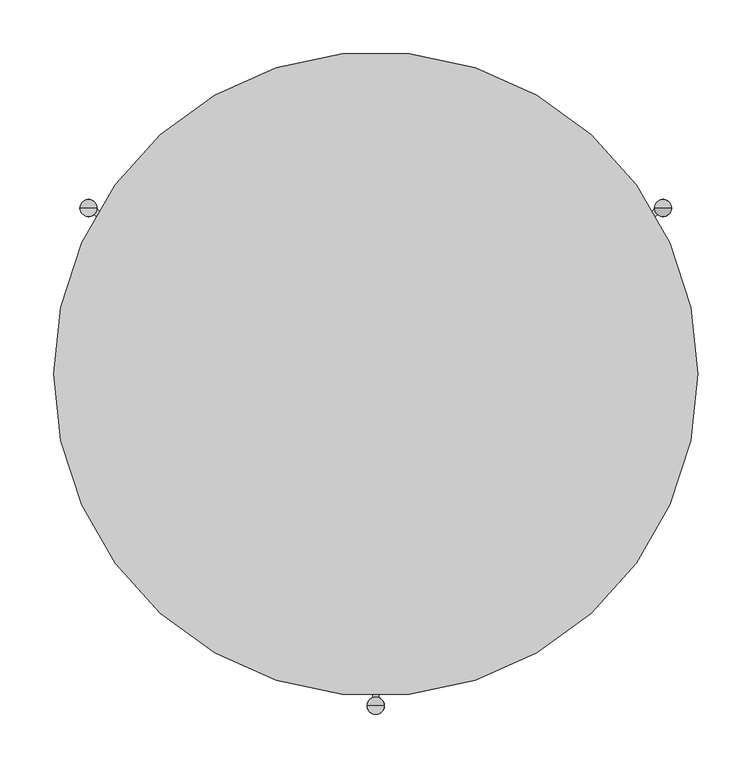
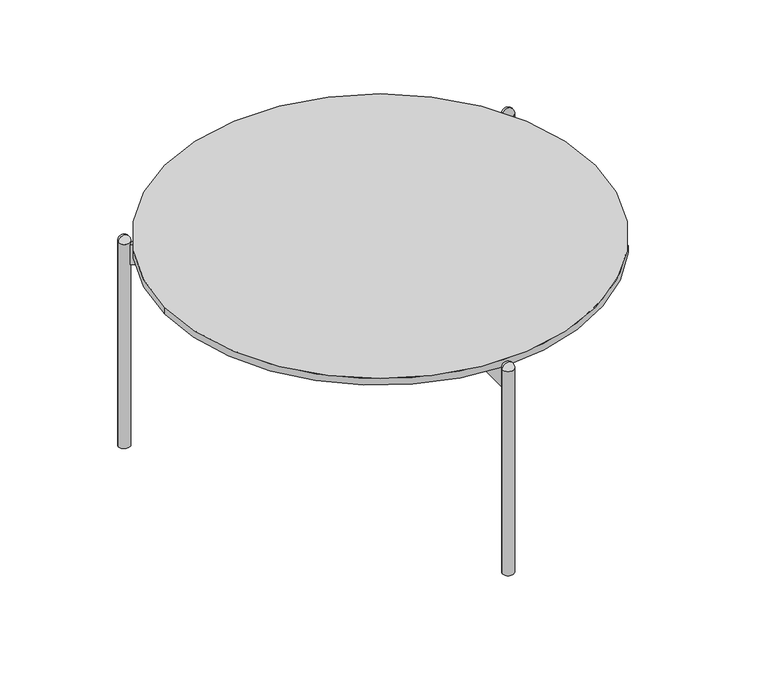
"""IFC4 building model written with IfcOpenShell, lengths in millimetres: furniture geometry, ROUND TABLE_H=31 : EI131B050060A_G."""

from ifc_helpers import new_model, si_unit, point, frame, frame_2d, origin, origin_with_axes, origin_2d, place, context, project, spatial, polyline, circle_curve, ellipse_curve, trimmed, segment, composite_curve, outline, extrude, source, transform, mapped, element, save
from ifc_brep_helpers import plane_surface, revolved_surface, advanced_brep


def furniture_a6a437eb(model_context):
    return source(origin(), model_context, "Body", "SolidModel", [
        extrude(outline(composite_curve([segment(trimmed(circle_curve(origin_2d(), 300.0), [point((-300.0, 0.0))], [point((300.0, 0.0))], False, "CARTESIAN"), True, "CONTINUOUS"), segment(trimmed(circle_curve(origin_2d(), 300.0), [point((300.0, 0.0))], [point((-300.0, 0.0))], False, "CARTESIAN"), True, "CONTINUOUS")], self_intersect=False)), frame((0.0, 0.0, 297.6939464), z_axis=(0.0, 0.0, 1.0), x_axis=(1.0, 0.0, 0.0)), (0.0, 0.0, 1.0), 10.0),
        extrude(outline(composite_curve([segment(polyline([(-19.7129166, 7.9278768), (-262.7443334, 148.2421307)]), True, "CONTINUOUS"), segment(trimmed(circle_curve(frame_2d((-267.6, 154.6)), 8.0), [point((-262.7443334, 148.2421307))], [point((-259.6895089, 153.4066303))], True, "CARTESIAN"), True, "CONTINUOUS"), segment(polyline([(-259.6895089, 153.4066303), (-16.7129166, 13.1240293), (-19.7129166, 7.9278768)]), True, "CONTINUOUS")], self_intersect=False)), frame((0.0, 0.0, 267.6939464), z_axis=(0.0, 0.0, 1.0), x_axis=(1.0, 0.0, 0.0)), (0.0, 0.0, 1.0), 30.0),
        extrude(outline(composite_curve([segment(polyline([(19.7314855, 7.9171561), (16.7314855, 13.1133085), (259.6925075, 153.38692)]), True, "CONTINUOUS"), segment(trimmed(circle_curve(frame_2d((267.6, 154.6)), 8.0), [point((259.6925075, 153.38692))], [point((262.7603454, 148.2299338))], True, "CARTESIAN"), True, "CONTINUOUS"), segment(polyline([(262.7603454, 148.2299338), (19.7314855, 7.9171561)]), True, "CONTINUOUS")], self_intersect=False)), frame((0.0, 0.0, 267.6939464), z_axis=(0.0, 0.0, 1.0), x_axis=(1.0, 0.0, 0.0)), (0.0, 0.0, 1.0), 30.0),
        extrude(outline(composite_curve([segment(polyline([(3.0, -21.0411853), (3.0, -301.5838015)]), True, "CONTINUOUS"), segment(trimmed(circle_curve(frame_2d((0.0, -309.0)), 8.0), [point((3.0, -301.5838015))], [point((-3.0, -301.5838015))], True, "CARTESIAN"), True, "CONTINUOUS"), segment(polyline([(-3.0, -301.5838015), (-3.0, -21.0411853), (3.0, -21.0411853)]), True, "CONTINUOUS")], self_intersect=False)), frame((0.0, 0.0, 267.6939464), z_axis=(0.0, 0.0, 1.0), x_axis=(1.0, 0.0, 0.0)), (0.0, 0.0, 1.0), 30.0),
        advanced_brep(
        [(267.6, 154.6, 309.1666667), (259.6, 154.6, 301.1666667), (275.6, 154.6, 301.1666667), (267.6, 154.6, 301.1666667)],
        [
            (0, 1, circle_curve(frame((267.6, 154.6, 301.1666667), z_axis=(0.0, -1.0, 0.0), x_axis=(1.0, 0.0, 0.0)), 8.0)),
            (1, 2, circle_curve(frame((267.6, 154.6, 301.1666667), z_axis=(0.0, 0.0, 1.0), x_axis=(-1.0, 0.0, 0.0)), 8.0)),
            (2, 0, circle_curve(frame((267.6, 154.6, 301.1666667), z_axis=(0.0, -1.0, 0.0), x_axis=(-1.0, 0.0, 0.0)), 8.0)),
            (2, 1, circle_curve(frame((267.6, 154.6, 301.1666667), z_axis=(0.0, 0.0, 1.0), x_axis=(-1.0, 0.0, 0.0)), 8.0)),
            (1, 3),
            (3, 2),
        ],
        [
            revolved_surface(trimmed(ellipse_curve(frame((267.6, 154.6, 301.1666667), z_axis=(0.0, 1.0, 0.0), x_axis=(1.0, 0.0, 0.0)), 8.0, 8.0), [point((259.6, 154.6, 301.1666667))], [point((267.6, 154.6, 309.1666667))], True, "CARTESIAN"), (267.6, 154.6, 2498.4), (0.0, 0.0, 1.0)),
            plane_surface(frame((267.6, 154.6, 301.1666667), z_axis=(0.0, 0.0, -1.0), x_axis=(-1.0, 0.0, 0.0))),
        ],
        [
            (0, [[1, 2, 3]]),
            (0, [[-3, 4, -1]]),
            (1, [[-2, 5, 6]]),
            (1, [[-4, -6, -5]]),
        ],
    ),
        advanced_brep(
        [(267.6, 154.6, 309.1666667), (259.6, 154.6, 301.1666667), (275.6, 154.6, 301.1666667), (267.6, 154.6, 301.1666667)],
        [
            (0, 1, circle_curve(frame((267.6, 154.6, 301.1666667), z_axis=(0.0, -1.0, 0.0), x_axis=(1.0, 0.0, 0.0)), 8.0)),
            (1, 2, circle_curve(frame((267.6, 154.6, 301.1666667), z_axis=(0.0, 0.0, 1.0), x_axis=(-1.0, 0.0, 0.0)), 8.0)),
            (2, 0, circle_curve(frame((267.6, 154.6, 301.1666667), z_axis=(0.0, -1.0, 0.0), x_axis=(-1.0, 0.0, 0.0)), 8.0)),
            (2, 1, circle_curve(frame((267.6, 154.6, 301.1666667), z_axis=(0.0, 0.0, 1.0), x_axis=(-1.0, 0.0, 0.0)), 8.0)),
            (1, 3),
            (3, 2),
        ],
        [
            revolved_surface(trimmed(ellipse_curve(frame((267.6, 154.6, 301.1666667), z_axis=(0.0, 1.0, 0.0), x_axis=(1.0, 0.0, 0.0)), 8.0, 8.0), [point((259.6, 154.6, 301.1666667))], [point((267.6, 154.6, 309.1666667))], True, "CARTESIAN"), (267.6, 154.6, 2498.4), (0.0, 0.0, 1.0)),
            plane_surface(frame((267.6, 154.6, 301.1666667), z_axis=(0.0, 0.0, -1.0), x_axis=(-1.0, 0.0, 0.0))),
        ],
        [
            (0, [[1, 2, 3]]),
            (0, [[-3, 4, -1]]),
            (1, [[-2, 5, 6]]),
            (1, [[-4, -6, -5]]),
        ],
    ),
        advanced_brep(
        [(-275.6, 154.6, 301.1666667), (-259.6, 154.6, 301.1666667), (-267.6, 154.6, 309.1666667), (-267.6, 154.6, 301.1666667)],
        [
            (0, 1, circle_curve(frame((-267.6, 154.6, 301.1666667), z_axis=(0.0, 0.0, 1.0), x_axis=(1.0, 0.0, 0.0)), 8.0)),
            (1, 2, circle_curve(frame((-267.6, 154.6, 301.1666667), z_axis=(0.0, -1.0, 0.0), x_axis=(-1.0, 0.0, 0.0)), 8.0)),
            (2, 0, circle_curve(frame((-267.6, 154.6, 301.1666667), z_axis=(0.0, -1.0, 0.0), x_axis=(1.0, 0.0, 0.0)), 8.0)),
            (1, 0, circle_curve(frame((-267.6, 154.6, 301.1666667), z_axis=(0.0, 0.0, 1.0), x_axis=(1.0, 0.0, 0.0)), 8.0)),
            (3, 1),
            (0, 3),
        ],
        [
            revolved_surface(trimmed(ellipse_curve(frame((-267.6, 154.6, 301.1666667), z_axis=(0.0, 1.0, 0.0), x_axis=(-1.0, 0.0, 0.0)), 8.0, 8.0), [point((-267.6, 154.6, 309.1666667))], [point((-259.6, 154.6, 301.1666667))], True, "CARTESIAN"), (-267.6, 154.6, 2498.4), (0.0, 0.0, -1.0)),
            plane_surface(frame((-267.6, 154.6, 301.1666667), z_axis=(0.0, 0.0, -1.0), x_axis=(1.0, 0.0, 0.0))),
        ],
        [
            (0, [[1, 2, 3]]),
            (0, [[4, -3, -2]]),
            (1, [[5, -1, 6]]),
            (1, [[-6, -4, -5]]),
        ],
    ),
        advanced_brep(
        [(-8.025371, -309.0, 301.1666667), (7.974629, -309.0, 301.1666667), (-0.025371, -309.0, 309.1666667), (-0.025371, -309.0, 301.1666667)],
        [
            (0, 1, circle_curve(frame((-0.025371, -309.0, 301.1666667), z_axis=(0.0, 0.0, 1.0), x_axis=(1.0, 0.0, 0.0)), 8.0)),
            (1, 2, circle_curve(frame((-0.025371, -309.0, 301.1666667), z_axis=(0.0, -1.0, 0.0), x_axis=(-1.0, 0.0, 0.0)), 8.0)),
            (2, 0, circle_curve(frame((-0.025371, -309.0, 301.1666667), z_axis=(0.0, -1.0, 0.0), x_axis=(1.0, 0.0, 0.0)), 8.0)),
            (1, 0, circle_curve(frame((-0.025371, -309.0, 301.1666667), z_axis=(0.0, 0.0, 1.0), x_axis=(1.0, 0.0, 0.0)), 8.0)),
            (3, 1),
            (0, 3),
        ],
        [
            revolved_surface(trimmed(ellipse_curve(frame((-0.025371, -309.0, 301.1666667), z_axis=(0.0, 1.0, 0.0), x_axis=(-1.0, 0.0, 0.0)), 8.0, 8.0), [point((-0.025371, -309.0, 309.1666667))], [point((7.974629, -309.0, 301.1666667))], True, "CARTESIAN"), (-0.025371, -309.0, 2498.4), (0.0, 0.0, -1.0)),
            plane_surface(frame((-0.025371, -309.0, 301.1666667), z_axis=(0.0, 0.0, -1.0), x_axis=(1.0, 0.0, 0.0))),
        ],
        [
            (0, [[1, 2, 3]]),
            (0, [[4, -3, -2]]),
            (1, [[5, -1, 6]]),
            (1, [[-6, -4, -5]]),
        ],
    ),
        extrude(outline(composite_curve([segment(trimmed(circle_curve(origin_2d(), 23.0), [point((-23.0, 0.0))], [point((23.0, 0.0))], False, "CARTESIAN"), True, "CONTINUOUS"), segment(trimmed(circle_curve(origin_2d(), 23.0), [point((23.0, 0.0))], [point((-23.0, 0.0))], False, "CARTESIAN"), True, "CONTINUOUS")], self_intersect=False)), frame((0.0, 0.0, 267.6939464), z_axis=(0.0, 0.0, 1.0), x_axis=(1.0, 0.0, 0.0)), (0.0, 0.0, 1.0), 30.0),
        extrude(outline(composite_curve([segment(trimmed(circle_curve(frame_2d((-267.6, 154.6)), 8.0), [point((-275.6, 154.6))], [point((-259.6, 154.6))], False, "CARTESIAN"), True, "CONTINUOUS"), segment(trimmed(circle_curve(frame_2d((-267.6, 154.6)), 8.0), [point((-259.6, 154.6))], [point((-275.6, 154.6))], False, "CARTESIAN"), True, "CONTINUOUS")], self_intersect=False)), origin_with_axes(), (0.0, 0.0, 1.0), 301.1666667),
        extrude(outline(composite_curve([segment(trimmed(circle_curve(frame_2d((267.6, 154.6)), 8.0), [point((259.6, 154.6))], [point((275.6, 154.6))], False, "CARTESIAN"), True, "CONTINUOUS"), segment(trimmed(circle_curve(frame_2d((267.6, 154.6)), 8.0), [point((275.6, 154.6))], [point((259.6, 154.6))], False, "CARTESIAN"), True, "CONTINUOUS")], self_intersect=False)), origin_with_axes(), (0.0, 0.0, 1.0), 301.1666667),
        extrude(outline(composite_curve([segment(trimmed(circle_curve(frame_2d((0.0, -309.0)), 8.0), [point((-8.0, -309.0))], [point((8.0, -309.0))], False, "CARTESIAN"), True, "CONTINUOUS"), segment(trimmed(circle_curve(frame_2d((0.0, -309.0)), 8.0), [point((8.0, -309.0))], [point((-8.0, -309.0))], False, "CARTESIAN"), True, "CONTINUOUS")], self_intersect=False)), origin_with_axes(), (0.0, 0.0, 1.0), 301.1666667),
    ])


if __name__ == "__main__":
    model = new_model("IFC4")
    model_context = context("Model", 3, world=origin())
    ifc_project = project(units=[si_unit("LENGTHUNIT", "METRE", prefix="MILLI")], contexts=[model_context])
    site = spatial("IfcSite", under=ifc_project)
    building = spatial("IfcBuilding", under=site)
    placement = place(None, origin())
    furniture_shape = furniture_a6a437eb(model_context)
    element("IfcFurniture", 1, ObjectType="ROUND TABLE_H=31 : EI131B050060A_G", at=placement, inside=building, context=model_context, shape_type="MappedRepresentation", body=[
        mapped(furniture_shape, transform((0.0, 0.0, 0.0), x_axis=(1.0, 0.0, 0.0), y_axis=(0.0, 1.0, 0.0), z_axis=(0.0, 0.0, 1.0))),
    ])
    save(model, "model.ifc")
